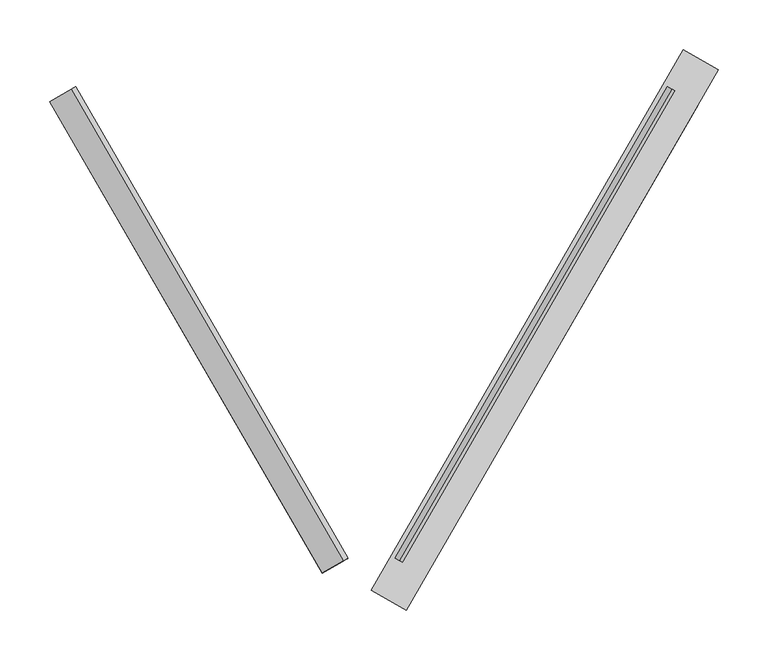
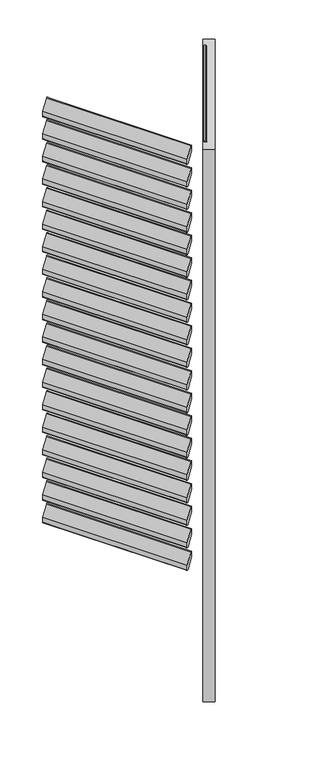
"""IFC4 building model written with IfcOpenShell, lengths in millimetres: proxy geometry, Renson_Amani_Loggia_Paro_Aluminium_Folding : Renson_Amani_Loggia_Paro_Aluminium_Folding."""

from ifc_helpers import new_model, si_unit, point, frame, frame_2d, origin, place, context, project, spatial, polyline, circle_curve, trimmed, segment, composite_curve, outline, extrude, source, transform, mapped, element, save


def generic_models_d69d8d74(model_context):
    return source(origin(), model_context, "Body", "SweptSolid", [
        extrude(outline(composite_curve([segment(trimmed(circle_curve(frame_2d((44.0658831, -3.0)), 3.0), [point((44.0658831, 0.0))], [point((45.6998002, -5.5160117))], False, "CARTESIAN"), True, "CONTINUOUS"), segment(polyline([(45.6998002, -5.5160117), (30.3011505, -15.5160117)]), True, "CONTINUOUS"), segment(trimmed(circle_curve(frame_2d((28.6672334, -13.0)), 3.0), [point((30.3011505, -15.5160117))], [point((28.6672334, -16.0))], False, "CARTESIAN"), True, "CONTINUOUS"), segment(polyline([(28.6672334, -16.0), (-15.3986496, -16.0)]), True, "CONTINUOUS"), segment(trimmed(circle_curve(frame_2d((-15.3986496, -13.0)), 3.0), [point((-15.3986496, -16.0))], [point((-17.0325667, -10.4839883))], False, "CARTESIAN"), True, "CONTINUOUS"), segment(polyline([(-17.0325667, -10.4839883), (-0.8886405, 0.0), (44.0658831, 0.0)]), True, "CONTINUOUS")], self_intersect=False)), frame((1784.4546074, 37.7168064, 2217.3359298), z_axis=(0.4999999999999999, 0.8660254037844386, 0.0), x_axis=(-0.4716712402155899, 0.2723195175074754, 0.8386705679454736)), (0.0, 0.0, 1.0), 545.0),
        extrude(outline(composite_curve([segment(trimmed(circle_curve(frame_2d((44.0658831, -3.0)), 3.0), [point((44.0658831, 0.0))], [point((45.6998002, -5.5160117))], False, "CARTESIAN"), True, "CONTINUOUS"), segment(polyline([(45.6998002, -5.5160117), (30.3011505, -15.5160117)]), True, "CONTINUOUS"), segment(trimmed(circle_curve(frame_2d((28.6672334, -13.0)), 3.0), [point((30.3011505, -15.5160117))], [point((28.6672334, -16.0))], False, "CARTESIAN"), True, "CONTINUOUS"), segment(polyline([(28.6672334, -16.0), (-15.3986496, -16.0)]), True, "CONTINUOUS"), segment(trimmed(circle_curve(frame_2d((-15.3986496, -13.0)), 3.0), [point((-15.3986496, -16.0))], [point((-17.0325667, -10.4839883))], False, "CARTESIAN"), True, "CONTINUOUS"), segment(polyline([(-17.0325667, -10.4839883), (-0.8886405, 0.0), (44.0658831, 0.0)]), True, "CONTINUOUS")], self_intersect=False)), frame((1784.4546074, 37.7168064, 2127.3359298), z_axis=(0.4999999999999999, 0.8660254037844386, 0.0), x_axis=(-0.4716712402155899, 0.2723195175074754, 0.8386705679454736)), (0.0, 0.0, 1.0), 545.0),
        extrude(outline(composite_curve([segment(trimmed(circle_curve(frame_2d((44.0658831, -3.0)), 3.0), [point((44.0658831, 0.0))], [point((45.6998002, -5.5160117))], False, "CARTESIAN"), True, "CONTINUOUS"), segment(polyline([(45.6998002, -5.5160117), (30.3011505, -15.5160117)]), True, "CONTINUOUS"), segment(trimmed(circle_curve(frame_2d((28.6672334, -13.0)), 3.0), [point((30.3011505, -15.5160117))], [point((28.6672334, -16.0))], False, "CARTESIAN"), True, "CONTINUOUS"), segment(polyline([(28.6672334, -16.0), (-15.3986496, -16.0)]), True, "CONTINUOUS"), segment(trimmed(circle_curve(frame_2d((-15.3986496, -13.0)), 3.0), [point((-15.3986496, -16.0))], [point((-17.0325667, -10.4839883))], False, "CARTESIAN"), True, "CONTINUOUS"), segment(polyline([(-17.0325667, -10.4839883), (-0.8886405, 0.0), (44.0658831, 0.0)]), True, "CONTINUOUS")], self_intersect=False)), frame((1784.4546074, 37.7168064, 2037.3359298), z_axis=(0.4999999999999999, 0.8660254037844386, 0.0), x_axis=(-0.4716712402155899, 0.2723195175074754, 0.8386705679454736)), (0.0, 0.0, 1.0), 545.0),
        extrude(outline(composite_curve([segment(trimmed(circle_curve(frame_2d((44.0658831, -3.0)), 3.0), [point((44.0658831, 0.0))], [point((45.6998002, -5.5160117))], False, "CARTESIAN"), True, "CONTINUOUS"), segment(polyline([(45.6998002, -5.5160117), (30.3011505, -15.5160117)]), True, "CONTINUOUS"), segment(trimmed(circle_curve(frame_2d((28.6672334, -13.0)), 3.0), [point((30.3011505, -15.5160117))], [point((28.6672334, -16.0))], False, "CARTESIAN"), True, "CONTINUOUS"), segment(polyline([(28.6672334, -16.0), (-15.3986496, -16.0)]), True, "CONTINUOUS"), segment(trimmed(circle_curve(frame_2d((-15.3986496, -13.0)), 3.0), [point((-15.3986496, -16.0))], [point((-17.0325667, -10.4839883))], False, "CARTESIAN"), True, "CONTINUOUS"), segment(polyline([(-17.0325667, -10.4839883), (-0.8886405, 0.0), (44.0658831, 0.0)]), True, "CONTINUOUS")], self_intersect=False)), frame((1784.4546074, 37.7168064, 1947.3359298), z_axis=(0.4999999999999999, 0.8660254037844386, 0.0), x_axis=(-0.4716712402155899, 0.2723195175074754, 0.8386705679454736)), (0.0, 0.0, 1.0), 545.0),
        extrude(outline(composite_curve([segment(trimmed(circle_curve(frame_2d((44.0658831, -3.0)), 3.0), [point((44.0658831, 0.0))], [point((45.6998002, -5.5160117))], False, "CARTESIAN"), True, "CONTINUOUS"), segment(polyline([(45.6998002, -5.5160117), (30.3011505, -15.5160117)]), True, "CONTINUOUS"), segment(trimmed(circle_curve(frame_2d((28.6672334, -13.0)), 3.0), [point((30.3011505, -15.5160117))], [point((28.6672334, -16.0))], False, "CARTESIAN"), True, "CONTINUOUS"), segment(polyline([(28.6672334, -16.0), (-15.3986496, -16.0)]), True, "CONTINUOUS"), segment(trimmed(circle_curve(frame_2d((-15.3986496, -13.0)), 3.0), [point((-15.3986496, -16.0))], [point((-17.0325667, -10.4839883))], False, "CARTESIAN"), True, "CONTINUOUS"), segment(polyline([(-17.0325667, -10.4839883), (-0.8886405, 0.0), (44.0658831, 0.0)]), True, "CONTINUOUS")], self_intersect=False)), frame((1784.4546074, 37.7168064, 1857.3359298), z_axis=(0.4999999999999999, 0.8660254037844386, 0.0), x_axis=(-0.4716712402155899, 0.2723195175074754, 0.8386705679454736)), (0.0, 0.0, 1.0), 545.0),
        extrude(outline(composite_curve([segment(trimmed(circle_curve(frame_2d((44.0658831, -3.0)), 3.0), [point((44.0658831, 0.0))], [point((45.6998002, -5.5160117))], False, "CARTESIAN"), True, "CONTINUOUS"), segment(polyline([(45.6998002, -5.5160117), (30.3011505, -15.5160117)]), True, "CONTINUOUS"), segment(trimmed(circle_curve(frame_2d((28.6672334, -13.0)), 3.0), [point((30.3011505, -15.5160117))], [point((28.6672334, -16.0))], False, "CARTESIAN"), True, "CONTINUOUS"), segment(polyline([(28.6672334, -16.0), (-15.3986496, -16.0)]), True, "CONTINUOUS"), segment(trimmed(circle_curve(frame_2d((-15.3986496, -13.0)), 3.0), [point((-15.3986496, -16.0))], [point((-17.0325667, -10.4839883))], False, "CARTESIAN"), True, "CONTINUOUS"), segment(polyline([(-17.0325667, -10.4839883), (-0.8886405, 0.0), (44.0658831, 0.0)]), True, "CONTINUOUS")], self_intersect=False)), frame((1784.4546074, 37.7168064, 1767.3359298), z_axis=(0.4999999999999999, 0.8660254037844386, 0.0), x_axis=(-0.4716712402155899, 0.2723195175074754, 0.8386705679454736)), (0.0, 0.0, 1.0), 545.0),
        extrude(outline(composite_curve([segment(trimmed(circle_curve(frame_2d((44.0658831, -3.0)), 3.0), [point((44.0658831, 0.0))], [point((45.6998002, -5.5160117))], False, "CARTESIAN"), True, "CONTINUOUS"), segment(polyline([(45.6998002, -5.5160117), (30.3011505, -15.5160117)]), True, "CONTINUOUS"), segment(trimmed(circle_curve(frame_2d((28.6672334, -13.0)), 3.0), [point((30.3011505, -15.5160117))], [point((28.6672334, -16.0))], False, "CARTESIAN"), True, "CONTINUOUS"), segment(polyline([(28.6672334, -16.0), (-15.3986496, -16.0)]), True, "CONTINUOUS"), segment(trimmed(circle_curve(frame_2d((-15.3986496, -13.0)), 3.0), [point((-15.3986496, -16.0))], [point((-17.0325667, -10.4839883))], False, "CARTESIAN"), True, "CONTINUOUS"), segment(polyline([(-17.0325667, -10.4839883), (-0.8886405, 0.0), (44.0658831, 0.0)]), True, "CONTINUOUS")], self_intersect=False)), frame((1784.4546074, 37.7168064, 1677.3359298), z_axis=(0.4999999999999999, 0.8660254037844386, 0.0), x_axis=(-0.4716712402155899, 0.2723195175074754, 0.8386705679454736)), (0.0, 0.0, 1.0), 545.0),
        extrude(outline(composite_curve([segment(trimmed(circle_curve(frame_2d((44.0658831, -3.0)), 3.0), [point((44.0658831, 0.0))], [point((45.6998002, -5.5160117))], False, "CARTESIAN"), True, "CONTINUOUS"), segment(polyline([(45.6998002, -5.5160117), (30.3011505, -15.5160117)]), True, "CONTINUOUS"), segment(trimmed(circle_curve(frame_2d((28.6672334, -13.0)), 3.0), [point((30.3011505, -15.5160117))], [point((28.6672334, -16.0))], False, "CARTESIAN"), True, "CONTINUOUS"), segment(polyline([(28.6672334, -16.0), (-15.3986496, -16.0)]), True, "CONTINUOUS"), segment(trimmed(circle_curve(frame_2d((-15.3986496, -13.0)), 3.0), [point((-15.3986496, -16.0))], [point((-17.0325667, -10.4839883))], False, "CARTESIAN"), True, "CONTINUOUS"), segment(polyline([(-17.0325667, -10.4839883), (-0.8886405, 0.0), (44.0658831, 0.0)]), True, "CONTINUOUS")], self_intersect=False)), frame((1784.4546074, 37.7168064, 1587.3359298), z_axis=(0.4999999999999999, 0.8660254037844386, 0.0), x_axis=(-0.4716712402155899, 0.2723195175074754, 0.8386705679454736)), (0.0, 0.0, 1.0), 545.0),
        extrude(outline(composite_curve([segment(trimmed(circle_curve(frame_2d((44.0658831, -3.0)), 3.0), [point((44.0658831, 0.0))], [point((45.6998002, -5.5160117))], False, "CARTESIAN"), True, "CONTINUOUS"), segment(polyline([(45.6998002, -5.5160117), (30.3011505, -15.5160117)]), True, "CONTINUOUS"), segment(trimmed(circle_curve(frame_2d((28.6672334, -13.0)), 3.0), [point((30.3011505, -15.5160117))], [point((28.6672334, -16.0))], False, "CARTESIAN"), True, "CONTINUOUS"), segment(polyline([(28.6672334, -16.0), (-15.3986496, -16.0)]), True, "CONTINUOUS"), segment(trimmed(circle_curve(frame_2d((-15.3986496, -13.0)), 3.0), [point((-15.3986496, -16.0))], [point((-17.0325667, -10.4839883))], False, "CARTESIAN"), True, "CONTINUOUS"), segment(polyline([(-17.0325667, -10.4839883), (-0.8886405, 0.0), (44.0658831, 0.0)]), True, "CONTINUOUS")], self_intersect=False)), frame((1784.4546074, 37.7168064, 1497.3359298), z_axis=(0.4999999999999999, 0.8660254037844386, 0.0), x_axis=(-0.4716712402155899, 0.2723195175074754, 0.8386705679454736)), (0.0, 0.0, 1.0), 545.0),
        extrude(outline(composite_curve([segment(trimmed(circle_curve(frame_2d((44.0658831, -3.0)), 3.0), [point((44.0658831, 0.0))], [point((45.6998002, -5.5160117))], False, "CARTESIAN"), True, "CONTINUOUS"), segment(polyline([(45.6998002, -5.5160117), (30.3011505, -15.5160117)]), True, "CONTINUOUS"), segment(trimmed(circle_curve(frame_2d((28.6672334, -13.0)), 3.0), [point((30.3011505, -15.5160117))], [point((28.6672334, -16.0))], False, "CARTESIAN"), True, "CONTINUOUS"), segment(polyline([(28.6672334, -16.0), (-15.3986496, -16.0)]), True, "CONTINUOUS"), segment(trimmed(circle_curve(frame_2d((-15.3986496, -13.0)), 3.0), [point((-15.3986496, -16.0))], [point((-17.0325667, -10.4839883))], False, "CARTESIAN"), True, "CONTINUOUS"), segment(polyline([(-17.0325667, -10.4839883), (-0.8886405, 0.0), (44.0658831, 0.0)]), True, "CONTINUOUS")], self_intersect=False)), frame((1784.4546074, 37.7168064, 1407.3359298), z_axis=(0.4999999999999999, 0.8660254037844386, 0.0), x_axis=(-0.4716712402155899, 0.2723195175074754, 0.8386705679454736)), (0.0, 0.0, 1.0), 545.0),
        extrude(outline(composite_curve([segment(trimmed(circle_curve(frame_2d((44.0658831, -3.0)), 3.0), [point((44.0658831, 0.0))], [point((45.6998002, -5.5160117))], False, "CARTESIAN"), True, "CONTINUOUS"), segment(polyline([(45.6998002, -5.5160117), (30.3011505, -15.5160117)]), True, "CONTINUOUS"), segment(trimmed(circle_curve(frame_2d((28.6672334, -13.0)), 3.0), [point((30.3011505, -15.5160117))], [point((28.6672334, -16.0))], False, "CARTESIAN"), True, "CONTINUOUS"), segment(polyline([(28.6672334, -16.0), (-15.3986496, -16.0)]), True, "CONTINUOUS"), segment(trimmed(circle_curve(frame_2d((-15.3986496, -13.0)), 3.0), [point((-15.3986496, -16.0))], [point((-17.0325667, -10.4839883))], False, "CARTESIAN"), True, "CONTINUOUS"), segment(polyline([(-17.0325667, -10.4839883), (-0.8886405, 0.0), (44.0658831, 0.0)]), True, "CONTINUOUS")], self_intersect=False)), frame((1784.4546074, 37.7168064, 1317.3359298), z_axis=(0.4999999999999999, 0.8660254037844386, 0.0), x_axis=(-0.4716712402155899, 0.2723195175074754, 0.8386705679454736)), (0.0, 0.0, 1.0), 545.0),
        extrude(outline(composite_curve([segment(trimmed(circle_curve(frame_2d((44.0658831, -3.0)), 3.0), [point((44.0658831, 0.0))], [point((45.6998002, -5.5160117))], False, "CARTESIAN"), True, "CONTINUOUS"), segment(polyline([(45.6998002, -5.5160117), (30.3011505, -15.5160117)]), True, "CONTINUOUS"), segment(trimmed(circle_curve(frame_2d((28.6672334, -13.0)), 3.0), [point((30.3011505, -15.5160117))], [point((28.6672334, -16.0))], False, "CARTESIAN"), True, "CONTINUOUS"), segment(polyline([(28.6672334, -16.0), (-15.3986496, -16.0)]), True, "CONTINUOUS"), segment(trimmed(circle_curve(frame_2d((-15.3986496, -13.0)), 3.0), [point((-15.3986496, -16.0))], [point((-17.0325667, -10.4839883))], False, "CARTESIAN"), True, "CONTINUOUS"), segment(polyline([(-17.0325667, -10.4839883), (-0.8886405, 0.0), (44.0658831, 0.0)]), True, "CONTINUOUS")], self_intersect=False)), frame((1784.4546074, 37.7168064, 1227.3359298), z_axis=(0.4999999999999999, 0.8660254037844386, 0.0), x_axis=(-0.4716712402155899, 0.2723195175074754, 0.8386705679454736)), (0.0, 0.0, 1.0), 545.0),
        extrude(outline(composite_curve([segment(trimmed(circle_curve(frame_2d((44.0658831, -3.0)), 3.0), [point((44.0658831, 0.0))], [point((45.6998002, -5.5160117))], False, "CARTESIAN"), True, "CONTINUOUS"), segment(polyline([(45.6998002, -5.5160117), (30.3011505, -15.5160117)]), True, "CONTINUOUS"), segment(trimmed(circle_curve(frame_2d((28.6672334, -13.0)), 3.0), [point((30.3011505, -15.5160117))], [point((28.6672334, -16.0))], False, "CARTESIAN"), True, "CONTINUOUS"), segment(polyline([(28.6672334, -16.0), (-15.3986496, -16.0)]), True, "CONTINUOUS"), segment(trimmed(circle_curve(frame_2d((-15.3986496, -13.0)), 3.0), [point((-15.3986496, -16.0))], [point((-17.0325667, -10.4839883))], False, "CARTESIAN"), True, "CONTINUOUS"), segment(polyline([(-17.0325667, -10.4839883), (-0.8886405, 0.0), (44.0658831, 0.0)]), True, "CONTINUOUS")], self_intersect=False)), frame((1784.4546074, 37.7168064, 1137.3359298), z_axis=(0.4999999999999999, 0.8660254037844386, 0.0), x_axis=(-0.4716712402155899, 0.2723195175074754, 0.8386705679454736)), (0.0, 0.0, 1.0), 545.0),
        extrude(outline(composite_curve([segment(trimmed(circle_curve(frame_2d((44.0658831, -3.0)), 3.0), [point((44.0658831, 0.0))], [point((45.6998002, -5.5160117))], False, "CARTESIAN"), True, "CONTINUOUS"), segment(polyline([(45.6998002, -5.5160117), (30.3011505, -15.5160117)]), True, "CONTINUOUS"), segment(trimmed(circle_curve(frame_2d((28.6672334, -13.0)), 3.0), [point((30.3011505, -15.5160117))], [point((28.6672334, -16.0))], False, "CARTESIAN"), True, "CONTINUOUS"), segment(polyline([(28.6672334, -16.0), (-15.3986496, -16.0)]), True, "CONTINUOUS"), segment(trimmed(circle_curve(frame_2d((-15.3986496, -13.0)), 3.0), [point((-15.3986496, -16.0))], [point((-17.0325667, -10.4839883))], False, "CARTESIAN"), True, "CONTINUOUS"), segment(polyline([(-17.0325667, -10.4839883), (-0.8886405, 0.0), (44.0658831, 0.0)]), True, "CONTINUOUS")], self_intersect=False)), frame((1784.4546074, 37.7168064, 1047.3359298), z_axis=(0.4999999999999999, 0.8660254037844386, 0.0), x_axis=(-0.4716712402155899, 0.2723195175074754, 0.8386705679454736)), (0.0, 0.0, 1.0), 545.0),
        extrude(outline(composite_curve([segment(trimmed(circle_curve(frame_2d((44.0658831, -3.0)), 3.0), [point((44.0658831, 0.0))], [point((45.6998002, -5.5160117))], False, "CARTESIAN"), True, "CONTINUOUS"), segment(polyline([(45.6998002, -5.5160117), (30.3011505, -15.5160117)]), True, "CONTINUOUS"), segment(trimmed(circle_curve(frame_2d((28.6672334, -13.0)), 3.0), [point((30.3011505, -15.5160117))], [point((28.6672334, -16.0))], False, "CARTESIAN"), True, "CONTINUOUS"), segment(polyline([(28.6672334, -16.0), (-15.3986496, -16.0)]), True, "CONTINUOUS"), segment(trimmed(circle_curve(frame_2d((-15.3986496, -13.0)), 3.0), [point((-15.3986496, -16.0))], [point((-17.0325667, -10.4839883))], False, "CARTESIAN"), True, "CONTINUOUS"), segment(polyline([(-17.0325667, -10.4839883), (-0.8886405, 0.0), (44.0658831, 0.0)]), True, "CONTINUOUS")], self_intersect=False)), frame((1784.4546074, 37.7168064, 957.3359298), z_axis=(0.4999999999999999, 0.8660254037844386, 0.0), x_axis=(-0.4716712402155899, 0.2723195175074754, 0.8386705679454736)), (0.0, 0.0, 1.0), 545.0),
        extrude(outline(composite_curve([segment(trimmed(circle_curve(frame_2d((44.0658831, -3.0)), 3.0), [point((44.0658831, 0.0))], [point((45.6998002, -5.5160117))], False, "CARTESIAN"), True, "CONTINUOUS"), segment(polyline([(45.6998002, -5.5160117), (30.3011505, -15.5160117)]), True, "CONTINUOUS"), segment(trimmed(circle_curve(frame_2d((28.6672334, -13.0)), 3.0), [point((30.3011505, -15.5160117))], [point((28.6672334, -16.0))], False, "CARTESIAN"), True, "CONTINUOUS"), segment(polyline([(28.6672334, -16.0), (-15.3986496, -16.0)]), True, "CONTINUOUS"), segment(trimmed(circle_curve(frame_2d((-15.3986496, -13.0)), 3.0), [point((-15.3986496, -16.0))], [point((-17.0325667, -10.4839883))], False, "CARTESIAN"), True, "CONTINUOUS"), segment(polyline([(-17.0325667, -10.4839883), (-0.8886405, 0.0), (44.0658831, 0.0)]), True, "CONTINUOUS")], self_intersect=False)), frame((1784.4546074, 37.7168064, 867.3359298), z_axis=(0.4999999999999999, 0.8660254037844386, 0.0), x_axis=(-0.4716712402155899, 0.2723195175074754, 0.8386705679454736)), (0.0, 0.0, 1.0), 545.0),
        extrude(outline(composite_curve([segment(trimmed(circle_curve(frame_2d((44.0658831, -3.0)), 3.0), [point((44.0658831, 0.0))], [point((45.6998002, -5.5160117))], False, "CARTESIAN"), True, "CONTINUOUS"), segment(polyline([(45.6998002, -5.5160117), (30.3011505, -15.5160117)]), True, "CONTINUOUS"), segment(trimmed(circle_curve(frame_2d((28.6672334, -13.0)), 3.0), [point((30.3011505, -15.5160117))], [point((28.6672334, -16.0))], False, "CARTESIAN"), True, "CONTINUOUS"), segment(polyline([(28.6672334, -16.0), (-15.3986496, -16.0)]), True, "CONTINUOUS"), segment(trimmed(circle_curve(frame_2d((-15.3986496, -13.0)), 3.0), [point((-15.3986496, -16.0))], [point((-17.0325667, -10.4839883))], False, "CARTESIAN"), True, "CONTINUOUS"), segment(polyline([(-17.0325667, -10.4839883), (-0.8886405, 0.0), (44.0658831, 0.0)]), True, "CONTINUOUS")], self_intersect=False)), frame((1784.4546074, 37.7168064, 777.3359298), z_axis=(0.4999999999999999, 0.8660254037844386, 0.0), x_axis=(-0.4716712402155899, 0.2723195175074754, 0.8386705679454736)), (0.0, 0.0, 1.0), 545.0),
        extrude(outline(composite_curve([segment(trimmed(circle_curve(frame_2d((44.0658831, -3.0)), 3.0), [point((44.0658831, 0.0))], [point((45.6998002, -5.5160117))], False, "CARTESIAN"), True, "CONTINUOUS"), segment(polyline([(45.6998002, -5.5160117), (30.3011505, -15.5160117)]), True, "CONTINUOUS"), segment(trimmed(circle_curve(frame_2d((28.6672334, -13.0)), 3.0), [point((30.3011505, -15.5160117))], [point((28.6672334, -16.0))], False, "CARTESIAN"), True, "CONTINUOUS"), segment(polyline([(28.6672334, -16.0), (-15.3986496, -16.0)]), True, "CONTINUOUS"), segment(trimmed(circle_curve(frame_2d((-15.3986496, -13.0)), 3.0), [point((-15.3986496, -16.0))], [point((-17.0325667, -10.4839883))], False, "CARTESIAN"), True, "CONTINUOUS"), segment(polyline([(-17.0325667, -10.4839883), (-0.8886405, 0.0), (44.0658831, 0.0)]), True, "CONTINUOUS")], self_intersect=False)), frame((1784.4546074, 37.7168064, 687.3359298), z_axis=(0.4999999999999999, 0.8660254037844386, 0.0), x_axis=(-0.4716712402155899, 0.2723195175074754, 0.8386705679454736)), (0.0, 0.0, 1.0), 545.0),
        extrude(outline(composite_curve([segment(trimmed(circle_curve(frame_2d((44.0658831, -3.0)), 3.0), [point((44.0658831, 0.0))], [point((45.6998002, -5.5160117))], False, "CARTESIAN"), True, "CONTINUOUS"), segment(polyline([(45.6998002, -5.5160117), (30.3011505, -15.5160117)]), True, "CONTINUOUS"), segment(trimmed(circle_curve(frame_2d((28.6672334, -13.0)), 3.0), [point((30.3011505, -15.5160117))], [point((28.6672334, -16.0))], False, "CARTESIAN"), True, "CONTINUOUS"), segment(polyline([(28.6672334, -16.0), (-15.3986496, -16.0)]), True, "CONTINUOUS"), segment(trimmed(circle_curve(frame_2d((-15.3986496, -13.0)), 3.0), [point((-15.3986496, -16.0))], [point((-17.0325667, -10.4839883))], False, "CARTESIAN"), True, "CONTINUOUS"), segment(polyline([(-17.0325667, -10.4839883), (-0.8886405, 0.0), (44.0658831, 0.0)]), True, "CONTINUOUS")], self_intersect=False)), frame((1784.4546074, 37.7168064, 597.3359298), z_axis=(0.4999999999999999, 0.8660254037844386, 0.0), x_axis=(-0.4716712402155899, 0.2723195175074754, 0.8386705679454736)), (0.0, 0.0, 1.0), 545.0),
        extrude(outline(composite_curve([segment(trimmed(circle_curve(frame_2d((44.0658831, -3.0)), 3.0), [point((44.0658831, 0.0))], [point((45.6998002, -5.5160117))], False, "CARTESIAN"), True, "CONTINUOUS"), segment(polyline([(45.6998002, -5.5160117), (30.3011505, -15.5160117)]), True, "CONTINUOUS"), segment(trimmed(circle_curve(frame_2d((28.6672334, -13.0)), 3.0), [point((30.3011505, -15.5160117))], [point((28.6672334, -16.0))], False, "CARTESIAN"), True, "CONTINUOUS"), segment(polyline([(28.6672334, -16.0), (-15.3986496, -16.0)]), True, "CONTINUOUS"), segment(trimmed(circle_curve(frame_2d((-15.3986496, -13.0)), 3.0), [point((-15.3986496, -16.0))], [point((-17.0325667, -10.4839883))], False, "CARTESIAN"), True, "CONTINUOUS"), segment(polyline([(-17.0325667, -10.4839883), (-0.8886405, 0.0), (44.0658831, 0.0)]), True, "CONTINUOUS")], self_intersect=False)), frame((1784.4546074, 37.7168064, 507.3359298), z_axis=(0.4999999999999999, 0.8660254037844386, 0.0), x_axis=(-0.4716712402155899, 0.2723195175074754, 0.8386705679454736)), (0.0, 0.0, 1.0), 545.0),
        extrude(outline(composite_curve([segment(trimmed(circle_curve(frame_2d((44.0658831, -3.0)), 3.0), [point((44.0658831, 0.0))], [point((45.6998002, -5.5160117))], False, "CARTESIAN"), True, "CONTINUOUS"), segment(polyline([(45.6998002, -5.5160117), (30.3011505, -15.5160117)]), True, "CONTINUOUS"), segment(trimmed(circle_curve(frame_2d((28.6672334, -13.0)), 3.0), [point((30.3011505, -15.5160117))], [point((28.6672334, -16.0))], False, "CARTESIAN"), True, "CONTINUOUS"), segment(polyline([(28.6672334, -16.0), (-15.3986496, -16.0)]), True, "CONTINUOUS"), segment(trimmed(circle_curve(frame_2d((-15.3986496, -13.0)), 3.0), [point((-15.3986496, -16.0))], [point((-17.0325667, -10.4839883))], False, "CARTESIAN"), True, "CONTINUOUS"), segment(polyline([(-17.0325667, -10.4839883), (-0.8886405, 0.0), (44.0658831, 0.0)]), True, "CONTINUOUS")], self_intersect=False)), frame((1784.4546074, 37.7168064, 417.3359298), z_axis=(0.4999999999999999, 0.8660254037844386, 0.0), x_axis=(-0.4716712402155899, 0.2723195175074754, 0.8386705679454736)), (0.0, 0.0, 1.0), 545.0),
        extrude(outline(composite_curve([segment(trimmed(circle_curve(frame_2d((44.0658831, -3.0)), 3.0), [point((44.0658831, 0.0))], [point((45.6998002, -5.5160117))], False, "CARTESIAN"), True, "CONTINUOUS"), segment(polyline([(45.6998002, -5.5160117), (30.3011505, -15.5160117)]), True, "CONTINUOUS"), segment(trimmed(circle_curve(frame_2d((28.6672334, -13.0)), 3.0), [point((30.3011505, -15.5160117))], [point((28.6672334, -16.0))], False, "CARTESIAN"), True, "CONTINUOUS"), segment(polyline([(28.6672334, -16.0), (-15.3986496, -16.0)]), True, "CONTINUOUS"), segment(trimmed(circle_curve(frame_2d((-15.3986496, -13.0)), 3.0), [point((-15.3986496, -16.0))], [point((-17.0325667, -10.4839883))], False, "CARTESIAN"), True, "CONTINUOUS"), segment(polyline([(-17.0325667, -10.4839883), (-0.8886405, 0.0), (44.0658831, 0.0)]), True, "CONTINUOUS")], self_intersect=False)), frame((1784.4546074, 37.7168064, 327.3359298), z_axis=(0.4999999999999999, 0.8660254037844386, 0.0), x_axis=(-0.4716712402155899, 0.2723195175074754, 0.8386705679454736)), (0.0, 0.0, 1.0), 545.0),
        extrude(outline(composite_curve([segment(trimmed(circle_curve(frame_2d((44.0658831, -3.0)), 3.0), [point((44.0658831, 0.0))], [point((45.6998002, -5.5160117))], False, "CARTESIAN"), True, "CONTINUOUS"), segment(polyline([(45.6998002, -5.5160117), (30.3011505, -15.5160117)]), True, "CONTINUOUS"), segment(trimmed(circle_curve(frame_2d((28.6672334, -13.0)), 3.0), [point((30.3011505, -15.5160117))], [point((28.6672334, -16.0))], False, "CARTESIAN"), True, "CONTINUOUS"), segment(polyline([(28.6672334, -16.0), (-15.3986496, -16.0)]), True, "CONTINUOUS"), segment(trimmed(circle_curve(frame_2d((-15.3986496, -13.0)), 3.0), [point((-15.3986496, -16.0))], [point((-17.0325667, -10.4839883))], False, "CARTESIAN"), True, "CONTINUOUS"), segment(polyline([(-17.0325667, -10.4839883), (-0.8886405, 0.0), (44.0658831, 0.0)]), True, "CONTINUOUS")], self_intersect=False)), frame((1784.4546074, 37.7168064, 237.3359298), z_axis=(0.4999999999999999, 0.8660254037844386, 0.0), x_axis=(-0.4716712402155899, 0.2723195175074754, 0.8386705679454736)), (0.0, 0.0, 1.0), 545.0),
        extrude(outline(composite_curve([segment(trimmed(circle_curve(frame_2d((44.0658831, -3.0)), 3.0), [point((44.0658831, 0.0))], [point((45.6998002, -5.5160117))], False, "CARTESIAN"), True, "CONTINUOUS"), segment(polyline([(45.6998002, -5.5160117), (30.3011505, -15.5160117)]), True, "CONTINUOUS"), segment(trimmed(circle_curve(frame_2d((28.6672334, -13.0)), 3.0), [point((30.3011505, -15.5160117))], [point((28.6672334, -16.0))], False, "CARTESIAN"), True, "CONTINUOUS"), segment(polyline([(28.6672334, -16.0), (-15.3986496, -16.0)]), True, "CONTINUOUS"), segment(trimmed(circle_curve(frame_2d((-15.3986496, -13.0)), 3.0), [point((-15.3986496, -16.0))], [point((-17.0325667, -10.4839883))], False, "CARTESIAN"), True, "CONTINUOUS"), segment(polyline([(-17.0325667, -10.4839883), (-0.8886405, 0.0), (44.0658831, 0.0)]), True, "CONTINUOUS")], self_intersect=False)), frame((1784.4546074, 37.7168064, 147.3359298), z_axis=(0.4999999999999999, 0.8660254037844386, 0.0), x_axis=(-0.4716712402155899, 0.2723195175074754, 0.8386705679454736)), (0.0, 0.0, 1.0), 545.0),
        extrude(outline(polyline([(2165.0, -40.0), (-40.0, -40.0), (-40.0, 585.0), (2165.0, 585.0), (2165.0, -40.0)]), holes=[polyline([(2125.0, 544.9999999), (0.0, 544.9999999), (0.0, 0.0), (2125.0, 0.0), (2125.0, 544.9999999)])]), frame((1789.7820323, 34.6410162, 85.0), z_axis=(-0.8660254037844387, 0.49999999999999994, 0.0), x_axis=(0.0, 0.0, 1.0)), (0.0, 0.0, 1.0), 40.0),
        extrude(outline(composite_curve([segment(polyline([(-44.0658831, 0.0), (0.8886405, 0.0), (17.0325667, -10.4839883)]), True, "CONTINUOUS"), segment(trimmed(circle_curve(frame_2d((15.3986496, -13.0)), 3.0), [point((17.0325667, -10.4839883))], [point((15.3986496, -16.0))], False, "CARTESIAN"), True, "CONTINUOUS"), segment(polyline([(15.3986496, -16.0), (-28.6672334, -16.0)]), True, "CONTINUOUS"), segment(trimmed(circle_curve(frame_2d((-28.6672334, -13.0)), 3.0), [point((-28.6672334, -16.0))], [point((-30.3011505, -15.5160117))], False, "CARTESIAN"), True, "CONTINUOUS"), segment(polyline([(-30.3011505, -15.5160117), (-45.6998002, -5.5160117)]), True, "CONTINUOUS"), segment(trimmed(circle_curve(frame_2d((-44.0658831, -3.0)), 3.0), [point((-45.6998002, -5.5160117))], [point((-44.0658831, 0.0))], False, "CARTESIAN"), True, "CONTINUOUS")], self_intersect=False)), frame((1686.1094572, 37.7168064, 2217.3359298), z_axis=(-0.5000000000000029, 0.866025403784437, 0.0), x_axis=(-0.47167124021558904, -0.27231951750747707, -0.8386705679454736)), (0.0, 0.0, 1.0), 545.0),
        extrude(outline(composite_curve([segment(polyline([(-44.0658831, 0.0), (0.8886405, 0.0), (17.0325667, -10.4839883)]), True, "CONTINUOUS"), segment(trimmed(circle_curve(frame_2d((15.3986496, -13.0)), 3.0), [point((17.0325667, -10.4839883))], [point((15.3986496, -16.0))], False, "CARTESIAN"), True, "CONTINUOUS"), segment(polyline([(15.3986496, -16.0), (-28.6672334, -16.0)]), True, "CONTINUOUS"), segment(trimmed(circle_curve(frame_2d((-28.6672334, -13.0)), 3.0), [point((-28.6672334, -16.0))], [point((-30.3011505, -15.5160117))], False, "CARTESIAN"), True, "CONTINUOUS"), segment(polyline([(-30.3011505, -15.5160117), (-45.6998002, -5.5160117)]), True, "CONTINUOUS"), segment(trimmed(circle_curve(frame_2d((-44.0658831, -3.0)), 3.0), [point((-45.6998002, -5.5160117))], [point((-44.0658831, 0.0))], False, "CARTESIAN"), True, "CONTINUOUS")], self_intersect=False)), frame((1686.1094572, 37.7168064, 2127.3359298), z_axis=(-0.5000000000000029, 0.866025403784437, 0.0), x_axis=(-0.47167124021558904, -0.27231951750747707, -0.8386705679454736)), (0.0, 0.0, 1.0), 545.0),
        extrude(outline(composite_curve([segment(polyline([(-44.0658831, 0.0), (0.8886405, 0.0), (17.0325667, -10.4839883)]), True, "CONTINUOUS"), segment(trimmed(circle_curve(frame_2d((15.3986496, -13.0)), 3.0), [point((17.0325667, -10.4839883))], [point((15.3986496, -16.0))], False, "CARTESIAN"), True, "CONTINUOUS"), segment(polyline([(15.3986496, -16.0), (-28.6672334, -16.0)]), True, "CONTINUOUS"), segment(trimmed(circle_curve(frame_2d((-28.6672334, -13.0)), 3.0), [point((-28.6672334, -16.0))], [point((-30.3011505, -15.5160117))], False, "CARTESIAN"), True, "CONTINUOUS"), segment(polyline([(-30.3011505, -15.5160117), (-45.6998002, -5.5160117)]), True, "CONTINUOUS"), segment(trimmed(circle_curve(frame_2d((-44.0658831, -3.0)), 3.0), [point((-45.6998002, -5.5160117))], [point((-44.0658831, 0.0))], False, "CARTESIAN"), True, "CONTINUOUS")], self_intersect=False)), frame((1686.1094572, 37.7168064, 2037.3359298), z_axis=(-0.5000000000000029, 0.866025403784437, 0.0), x_axis=(-0.47167124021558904, -0.27231951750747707, -0.8386705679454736)), (0.0, 0.0, 1.0), 545.0),
        extrude(outline(composite_curve([segment(polyline([(-44.0658831, 0.0), (0.8886405, 0.0), (17.0325667, -10.4839883)]), True, "CONTINUOUS"), segment(trimmed(circle_curve(frame_2d((15.3986496, -13.0)), 3.0), [point((17.0325667, -10.4839883))], [point((15.3986496, -16.0))], False, "CARTESIAN"), True, "CONTINUOUS"), segment(polyline([(15.3986496, -16.0), (-28.6672334, -16.0)]), True, "CONTINUOUS"), segment(trimmed(circle_curve(frame_2d((-28.6672334, -13.0)), 3.0), [point((-28.6672334, -16.0))], [point((-30.3011505, -15.5160117))], False, "CARTESIAN"), True, "CONTINUOUS"), segment(polyline([(-30.3011505, -15.5160117), (-45.6998002, -5.5160117)]), True, "CONTINUOUS"), segment(trimmed(circle_curve(frame_2d((-44.0658831, -3.0)), 3.0), [point((-45.6998002, -5.5160117))], [point((-44.0658831, 0.0))], False, "CARTESIAN"), True, "CONTINUOUS")], self_intersect=False)), frame((1686.1094572, 37.7168064, 1947.3359298), z_axis=(-0.5000000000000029, 0.866025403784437, 0.0), x_axis=(-0.47167124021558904, -0.27231951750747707, -0.8386705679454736)), (0.0, 0.0, 1.0), 545.0),
        extrude(outline(composite_curve([segment(polyline([(-44.0658831, 0.0), (0.8886405, 0.0), (17.0325667, -10.4839883)]), True, "CONTINUOUS"), segment(trimmed(circle_curve(frame_2d((15.3986496, -13.0)), 3.0), [point((17.0325667, -10.4839883))], [point((15.3986496, -16.0))], False, "CARTESIAN"), True, "CONTINUOUS"), segment(polyline([(15.3986496, -16.0), (-28.6672334, -16.0)]), True, "CONTINUOUS"), segment(trimmed(circle_curve(frame_2d((-28.6672334, -13.0)), 3.0), [point((-28.6672334, -16.0))], [point((-30.3011505, -15.5160117))], False, "CARTESIAN"), True, "CONTINUOUS"), segment(polyline([(-30.3011505, -15.5160117), (-45.6998002, -5.5160117)]), True, "CONTINUOUS"), segment(trimmed(circle_curve(frame_2d((-44.0658831, -3.0)), 3.0), [point((-45.6998002, -5.5160117))], [point((-44.0658831, 0.0))], False, "CARTESIAN"), True, "CONTINUOUS")], self_intersect=False)), frame((1686.1094572, 37.7168064, 1857.3359298), z_axis=(-0.5000000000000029, 0.866025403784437, 0.0), x_axis=(-0.47167124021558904, -0.27231951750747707, -0.8386705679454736)), (0.0, 0.0, 1.0), 545.0),
        extrude(outline(composite_curve([segment(polyline([(-44.0658831, 0.0), (0.8886405, 0.0), (17.0325667, -10.4839883)]), True, "CONTINUOUS"), segment(trimmed(circle_curve(frame_2d((15.3986496, -13.0)), 3.0), [point((17.0325667, -10.4839883))], [point((15.3986496, -16.0))], False, "CARTESIAN"), True, "CONTINUOUS"), segment(polyline([(15.3986496, -16.0), (-28.6672334, -16.0)]), True, "CONTINUOUS"), segment(trimmed(circle_curve(frame_2d((-28.6672334, -13.0)), 3.0), [point((-28.6672334, -16.0))], [point((-30.3011505, -15.5160117))], False, "CARTESIAN"), True, "CONTINUOUS"), segment(polyline([(-30.3011505, -15.5160117), (-45.6998002, -5.5160117)]), True, "CONTINUOUS"), segment(trimmed(circle_curve(frame_2d((-44.0658831, -3.0)), 3.0), [point((-45.6998002, -5.5160117))], [point((-44.0658831, 0.0))], False, "CARTESIAN"), True, "CONTINUOUS")], self_intersect=False)), frame((1686.1094572, 37.7168064, 1767.3359298), z_axis=(-0.5000000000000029, 0.866025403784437, 0.0), x_axis=(-0.47167124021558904, -0.27231951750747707, -0.8386705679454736)), (0.0, 0.0, 1.0), 545.0),
        extrude(outline(composite_curve([segment(polyline([(-44.0658831, 0.0), (0.8886405, 0.0), (17.0325667, -10.4839883)]), True, "CONTINUOUS"), segment(trimmed(circle_curve(frame_2d((15.3986496, -13.0)), 3.0), [point((17.0325667, -10.4839883))], [point((15.3986496, -16.0))], False, "CARTESIAN"), True, "CONTINUOUS"), segment(polyline([(15.3986496, -16.0), (-28.6672334, -16.0)]), True, "CONTINUOUS"), segment(trimmed(circle_curve(frame_2d((-28.6672334, -13.0)), 3.0), [point((-28.6672334, -16.0))], [point((-30.3011505, -15.5160117))], False, "CARTESIAN"), True, "CONTINUOUS"), segment(polyline([(-30.3011505, -15.5160117), (-45.6998002, -5.5160117)]), True, "CONTINUOUS"), segment(trimmed(circle_curve(frame_2d((-44.0658831, -3.0)), 3.0), [point((-45.6998002, -5.5160117))], [point((-44.0658831, 0.0))], False, "CARTESIAN"), True, "CONTINUOUS")], self_intersect=False)), frame((1686.1094572, 37.7168064, 1677.3359298), z_axis=(-0.5000000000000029, 0.866025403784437, 0.0), x_axis=(-0.47167124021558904, -0.27231951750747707, -0.8386705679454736)), (0.0, 0.0, 1.0), 545.0),
        extrude(outline(composite_curve([segment(polyline([(-44.0658831, 0.0), (0.8886405, 0.0), (17.0325667, -10.4839883)]), True, "CONTINUOUS"), segment(trimmed(circle_curve(frame_2d((15.3986496, -13.0)), 3.0), [point((17.0325667, -10.4839883))], [point((15.3986496, -16.0))], False, "CARTESIAN"), True, "CONTINUOUS"), segment(polyline([(15.3986496, -16.0), (-28.6672334, -16.0)]), True, "CONTINUOUS"), segment(trimmed(circle_curve(frame_2d((-28.6672334, -13.0)), 3.0), [point((-28.6672334, -16.0))], [point((-30.3011505, -15.5160117))], False, "CARTESIAN"), True, "CONTINUOUS"), segment(polyline([(-30.3011505, -15.5160117), (-45.6998002, -5.5160117)]), True, "CONTINUOUS"), segment(trimmed(circle_curve(frame_2d((-44.0658831, -3.0)), 3.0), [point((-45.6998002, -5.5160117))], [point((-44.0658831, 0.0))], False, "CARTESIAN"), True, "CONTINUOUS")], self_intersect=False)), frame((1686.1094572, 37.7168064, 1587.3359298), z_axis=(-0.5000000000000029, 0.866025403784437, 0.0), x_axis=(-0.47167124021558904, -0.27231951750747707, -0.8386705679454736)), (0.0, 0.0, 1.0), 545.0),
        extrude(outline(composite_curve([segment(polyline([(-44.0658831, 0.0), (0.8886405, 0.0), (17.0325667, -10.4839883)]), True, "CONTINUOUS"), segment(trimmed(circle_curve(frame_2d((15.3986496, -13.0)), 3.0), [point((17.0325667, -10.4839883))], [point((15.3986496, -16.0))], False, "CARTESIAN"), True, "CONTINUOUS"), segment(polyline([(15.3986496, -16.0), (-28.6672334, -16.0)]), True, "CONTINUOUS"), segment(trimmed(circle_curve(frame_2d((-28.6672334, -13.0)), 3.0), [point((-28.6672334, -16.0))], [point((-30.3011505, -15.5160117))], False, "CARTESIAN"), True, "CONTINUOUS"), segment(polyline([(-30.3011505, -15.5160117), (-45.6998002, -5.5160117)]), True, "CONTINUOUS"), segment(trimmed(circle_curve(frame_2d((-44.0658831, -3.0)), 3.0), [point((-45.6998002, -5.5160117))], [point((-44.0658831, 0.0))], False, "CARTESIAN"), True, "CONTINUOUS")], self_intersect=False)), frame((1686.1094572, 37.7168064, 1497.3359298), z_axis=(-0.5000000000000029, 0.866025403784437, 0.0), x_axis=(-0.47167124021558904, -0.27231951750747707, -0.8386705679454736)), (0.0, 0.0, 1.0), 545.0),
        extrude(outline(composite_curve([segment(polyline([(-44.0658831, 0.0), (0.8886405, 0.0), (17.0325667, -10.4839883)]), True, "CONTINUOUS"), segment(trimmed(circle_curve(frame_2d((15.3986496, -13.0)), 3.0), [point((17.0325667, -10.4839883))], [point((15.3986496, -16.0))], False, "CARTESIAN"), True, "CONTINUOUS"), segment(polyline([(15.3986496, -16.0), (-28.6672334, -16.0)]), True, "CONTINUOUS"), segment(trimmed(circle_curve(frame_2d((-28.6672334, -13.0)), 3.0), [point((-28.6672334, -16.0))], [point((-30.3011505, -15.5160117))], False, "CARTESIAN"), True, "CONTINUOUS"), segment(polyline([(-30.3011505, -15.5160117), (-45.6998002, -5.5160117)]), True, "CONTINUOUS"), segment(trimmed(circle_curve(frame_2d((-44.0658831, -3.0)), 3.0), [point((-45.6998002, -5.5160117))], [point((-44.0658831, 0.0))], False, "CARTESIAN"), True, "CONTINUOUS")], self_intersect=False)), frame((1686.1094572, 37.7168064, 1407.3359298), z_axis=(-0.5000000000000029, 0.866025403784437, 0.0), x_axis=(-0.47167124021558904, -0.27231951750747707, -0.8386705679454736)), (0.0, 0.0, 1.0), 545.0),
        extrude(outline(composite_curve([segment(polyline([(-44.0658831, 0.0), (0.8886405, 0.0), (17.0325667, -10.4839883)]), True, "CONTINUOUS"), segment(trimmed(circle_curve(frame_2d((15.3986496, -13.0)), 3.0), [point((17.0325667, -10.4839883))], [point((15.3986496, -16.0))], False, "CARTESIAN"), True, "CONTINUOUS"), segment(polyline([(15.3986496, -16.0), (-28.6672334, -16.0)]), True, "CONTINUOUS"), segment(trimmed(circle_curve(frame_2d((-28.6672334, -13.0)), 3.0), [point((-28.6672334, -16.0))], [point((-30.3011505, -15.5160117))], False, "CARTESIAN"), True, "CONTINUOUS"), segment(polyline([(-30.3011505, -15.5160117), (-45.6998002, -5.5160117)]), True, "CONTINUOUS"), segment(trimmed(circle_curve(frame_2d((-44.0658831, -3.0)), 3.0), [point((-45.6998002, -5.5160117))], [point((-44.0658831, 0.0))], False, "CARTESIAN"), True, "CONTINUOUS")], self_intersect=False)), frame((1686.1094572, 37.7168064, 1317.3359298), z_axis=(-0.5000000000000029, 0.866025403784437, 0.0), x_axis=(-0.47167124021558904, -0.27231951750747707, -0.8386705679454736)), (0.0, 0.0, 1.0), 545.0),
        extrude(outline(composite_curve([segment(polyline([(-44.0658831, 0.0), (0.8886405, 0.0), (17.0325667, -10.4839883)]), True, "CONTINUOUS"), segment(trimmed(circle_curve(frame_2d((15.3986496, -13.0)), 3.0), [point((17.0325667, -10.4839883))], [point((15.3986496, -16.0))], False, "CARTESIAN"), True, "CONTINUOUS"), segment(polyline([(15.3986496, -16.0), (-28.6672334, -16.0)]), True, "CONTINUOUS"), segment(trimmed(circle_curve(frame_2d((-28.6672334, -13.0)), 3.0), [point((-28.6672334, -16.0))], [point((-30.3011505, -15.5160117))], False, "CARTESIAN"), True, "CONTINUOUS"), segment(polyline([(-30.3011505, -15.5160117), (-45.6998002, -5.5160117)]), True, "CONTINUOUS"), segment(trimmed(circle_curve(frame_2d((-44.0658831, -3.0)), 3.0), [point((-45.6998002, -5.5160117))], [point((-44.0658831, 0.0))], False, "CARTESIAN"), True, "CONTINUOUS")], self_intersect=False)), frame((1686.1094572, 37.7168064, 1227.3359298), z_axis=(-0.5000000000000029, 0.866025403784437, 0.0), x_axis=(-0.47167124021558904, -0.27231951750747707, -0.8386705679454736)), (0.0, 0.0, 1.0), 545.0),
        extrude(outline(composite_curve([segment(polyline([(-44.0658831, 0.0), (0.8886405, 0.0), (17.0325667, -10.4839883)]), True, "CONTINUOUS"), segment(trimmed(circle_curve(frame_2d((15.3986496, -13.0)), 3.0), [point((17.0325667, -10.4839883))], [point((15.3986496, -16.0))], False, "CARTESIAN"), True, "CONTINUOUS"), segment(polyline([(15.3986496, -16.0), (-28.6672334, -16.0)]), True, "CONTINUOUS"), segment(trimmed(circle_curve(frame_2d((-28.6672334, -13.0)), 3.0), [point((-28.6672334, -16.0))], [point((-30.3011505, -15.5160117))], False, "CARTESIAN"), True, "CONTINUOUS"), segment(polyline([(-30.3011505, -15.5160117), (-45.6998002, -5.5160117)]), True, "CONTINUOUS"), segment(trimmed(circle_curve(frame_2d((-44.0658831, -3.0)), 3.0), [point((-45.6998002, -5.5160117))], [point((-44.0658831, 0.0))], False, "CARTESIAN"), True, "CONTINUOUS")], self_intersect=False)), frame((1686.1094572, 37.7168064, 1137.3359298), z_axis=(-0.5000000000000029, 0.866025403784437, 0.0), x_axis=(-0.47167124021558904, -0.27231951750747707, -0.8386705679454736)), (0.0, 0.0, 1.0), 545.0),
        extrude(outline(composite_curve([segment(polyline([(-44.0658831, 0.0), (0.8886405, 0.0), (17.0325667, -10.4839883)]), True, "CONTINUOUS"), segment(trimmed(circle_curve(frame_2d((15.3986496, -13.0)), 3.0), [point((17.0325667, -10.4839883))], [point((15.3986496, -16.0))], False, "CARTESIAN"), True, "CONTINUOUS"), segment(polyline([(15.3986496, -16.0), (-28.6672334, -16.0)]), True, "CONTINUOUS"), segment(trimmed(circle_curve(frame_2d((-28.6672334, -13.0)), 3.0), [point((-28.6672334, -16.0))], [point((-30.3011505, -15.5160117))], False, "CARTESIAN"), True, "CONTINUOUS"), segment(polyline([(-30.3011505, -15.5160117), (-45.6998002, -5.5160117)]), True, "CONTINUOUS"), segment(trimmed(circle_curve(frame_2d((-44.0658831, -3.0)), 3.0), [point((-45.6998002, -5.5160117))], [point((-44.0658831, 0.0))], False, "CARTESIAN"), True, "CONTINUOUS")], self_intersect=False)), frame((1686.1094572, 37.7168064, 1047.3359298), z_axis=(-0.5000000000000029, 0.866025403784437, 0.0), x_axis=(-0.47167124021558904, -0.27231951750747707, -0.8386705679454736)), (0.0, 0.0, 1.0), 545.0),
        extrude(outline(composite_curve([segment(polyline([(-44.0658831, 0.0), (0.8886405, 0.0), (17.0325667, -10.4839883)]), True, "CONTINUOUS"), segment(trimmed(circle_curve(frame_2d((15.3986496, -13.0)), 3.0), [point((17.0325667, -10.4839883))], [point((15.3986496, -16.0))], False, "CARTESIAN"), True, "CONTINUOUS"), segment(polyline([(15.3986496, -16.0), (-28.6672334, -16.0)]), True, "CONTINUOUS"), segment(trimmed(circle_curve(frame_2d((-28.6672334, -13.0)), 3.0), [point((-28.6672334, -16.0))], [point((-30.3011505, -15.5160117))], False, "CARTESIAN"), True, "CONTINUOUS"), segment(polyline([(-30.3011505, -15.5160117), (-45.6998002, -5.5160117)]), True, "CONTINUOUS"), segment(trimmed(circle_curve(frame_2d((-44.0658831, -3.0)), 3.0), [point((-45.6998002, -5.5160117))], [point((-44.0658831, 0.0))], False, "CARTESIAN"), True, "CONTINUOUS")], self_intersect=False)), frame((1686.1094572, 37.7168064, 957.3359298), z_axis=(-0.5000000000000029, 0.866025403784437, 0.0), x_axis=(-0.47167124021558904, -0.27231951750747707, -0.8386705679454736)), (0.0, 0.0, 1.0), 545.0),
        extrude(outline(composite_curve([segment(polyline([(-44.0658831, 0.0), (0.8886405, 0.0), (17.0325667, -10.4839883)]), True, "CONTINUOUS"), segment(trimmed(circle_curve(frame_2d((15.3986496, -13.0)), 3.0), [point((17.0325667, -10.4839883))], [point((15.3986496, -16.0))], False, "CARTESIAN"), True, "CONTINUOUS"), segment(polyline([(15.3986496, -16.0), (-28.6672334, -16.0)]), True, "CONTINUOUS"), segment(trimmed(circle_curve(frame_2d((-28.6672334, -13.0)), 3.0), [point((-28.6672334, -16.0))], [point((-30.3011505, -15.5160117))], False, "CARTESIAN"), True, "CONTINUOUS"), segment(polyline([(-30.3011505, -15.5160117), (-45.6998002, -5.5160117)]), True, "CONTINUOUS"), segment(trimmed(circle_curve(frame_2d((-44.0658831, -3.0)), 3.0), [point((-45.6998002, -5.5160117))], [point((-44.0658831, 0.0))], False, "CARTESIAN"), True, "CONTINUOUS")], self_intersect=False)), frame((1686.1094572, 37.7168064, 867.3359298), z_axis=(-0.5000000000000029, 0.866025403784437, 0.0), x_axis=(-0.47167124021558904, -0.27231951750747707, -0.8386705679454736)), (0.0, 0.0, 1.0), 545.0),
        extrude(outline(composite_curve([segment(polyline([(-44.0658831, 0.0), (0.8886405, 0.0), (17.0325667, -10.4839883)]), True, "CONTINUOUS"), segment(trimmed(circle_curve(frame_2d((15.3986496, -13.0)), 3.0), [point((17.0325667, -10.4839883))], [point((15.3986496, -16.0))], False, "CARTESIAN"), True, "CONTINUOUS"), segment(polyline([(15.3986496, -16.0), (-28.6672334, -16.0)]), True, "CONTINUOUS"), segment(trimmed(circle_curve(frame_2d((-28.6672334, -13.0)), 3.0), [point((-28.6672334, -16.0))], [point((-30.3011505, -15.5160117))], False, "CARTESIAN"), True, "CONTINUOUS"), segment(polyline([(-30.3011505, -15.5160117), (-45.6998002, -5.5160117)]), True, "CONTINUOUS"), segment(trimmed(circle_curve(frame_2d((-44.0658831, -3.0)), 3.0), [point((-45.6998002, -5.5160117))], [point((-44.0658831, 0.0))], False, "CARTESIAN"), True, "CONTINUOUS")], self_intersect=False)), frame((1686.1094572, 37.7168064, 777.3359298), z_axis=(-0.5000000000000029, 0.866025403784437, 0.0), x_axis=(-0.47167124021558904, -0.27231951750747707, -0.8386705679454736)), (0.0, 0.0, 1.0), 545.0),
        extrude(outline(composite_curve([segment(polyline([(-44.0658831, 0.0), (0.8886405, 0.0), (17.0325667, -10.4839883)]), True, "CONTINUOUS"), segment(trimmed(circle_curve(frame_2d((15.3986496, -13.0)), 3.0), [point((17.0325667, -10.4839883))], [point((15.3986496, -16.0))], False, "CARTESIAN"), True, "CONTINUOUS"), segment(polyline([(15.3986496, -16.0), (-28.6672334, -16.0)]), True, "CONTINUOUS"), segment(trimmed(circle_curve(frame_2d((-28.6672334, -13.0)), 3.0), [point((-28.6672334, -16.0))], [point((-30.3011505, -15.5160117))], False, "CARTESIAN"), True, "CONTINUOUS"), segment(polyline([(-30.3011505, -15.5160117), (-45.6998002, -5.5160117)]), True, "CONTINUOUS"), segment(trimmed(circle_curve(frame_2d((-44.0658831, -3.0)), 3.0), [point((-45.6998002, -5.5160117))], [point((-44.0658831, 0.0))], False, "CARTESIAN"), True, "CONTINUOUS")], self_intersect=False)), frame((1686.1094572, 37.7168064, 687.3359298), z_axis=(-0.5000000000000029, 0.866025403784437, 0.0), x_axis=(-0.47167124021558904, -0.27231951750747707, -0.8386705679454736)), (0.0, 0.0, 1.0), 545.0),
        extrude(outline(composite_curve([segment(polyline([(-44.0658831, 0.0), (0.8886405, 0.0), (17.0325667, -10.4839883)]), True, "CONTINUOUS"), segment(trimmed(circle_curve(frame_2d((15.3986496, -13.0)), 3.0), [point((17.0325667, -10.4839883))], [point((15.3986496, -16.0))], False, "CARTESIAN"), True, "CONTINUOUS"), segment(polyline([(15.3986496, -16.0), (-28.6672334, -16.0)]), True, "CONTINUOUS"), segment(trimmed(circle_curve(frame_2d((-28.6672334, -13.0)), 3.0), [point((-28.6672334, -16.0))], [point((-30.3011505, -15.5160117))], False, "CARTESIAN"), True, "CONTINUOUS"), segment(polyline([(-30.3011505, -15.5160117), (-45.6998002, -5.5160117)]), True, "CONTINUOUS"), segment(trimmed(circle_curve(frame_2d((-44.0658831, -3.0)), 3.0), [point((-45.6998002, -5.5160117))], [point((-44.0658831, 0.0))], False, "CARTESIAN"), True, "CONTINUOUS")], self_intersect=False)), frame((1686.1094572, 37.7168064, 597.3359298), z_axis=(-0.5000000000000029, 0.866025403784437, 0.0), x_axis=(-0.47167124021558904, -0.27231951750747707, -0.8386705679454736)), (0.0, 0.0, 1.0), 545.0),
    ])


if __name__ == "__main__":
    model = new_model("IFC4")
    model_context = context("Model", 3, world=origin())
    ifc_project = project(units=[si_unit("LENGTHUNIT", "METRE", prefix="MILLI")], contexts=[model_context])
    site = spatial("IfcSite", under=ifc_project)
    building = spatial("IfcBuilding", under=site)
    placement = place(None, origin())
    generic_models_shape = generic_models_d69d8d74(model_context)
    element("IfcBuildingElementProxy", 1, Name="Renson_Amani_Loggia_Paro_Aluminium_Folding : Renson_Amani_Loggia_Paro_Aluminium_Folding", ObjectType="Renson_Amani_Loggia_Paro_Aluminium_Folding : Renson_Amani_Loggia_Paro_Aluminium_Folding", at=placement, inside=building, context=model_context, shape_type="MappedRepresentation", body=[
        mapped(generic_models_shape, transform((0.0, 0.0, 0.0), x_axis=(1.0, 0.0, 0.0), y_axis=(0.0, 1.0, 0.0), z_axis=(0.0, 0.0, 1.0))),
    ])
    save(model, "model.ifc")
